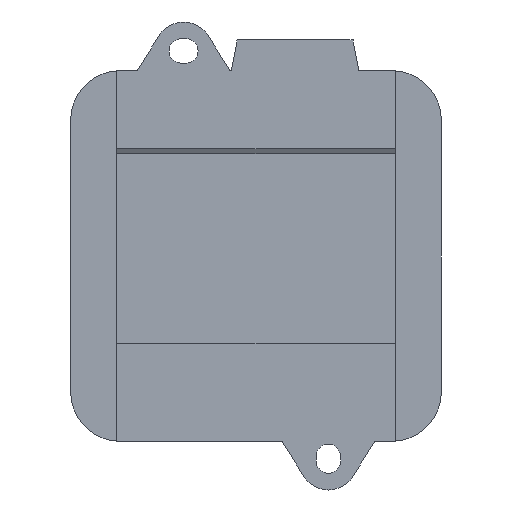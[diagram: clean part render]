
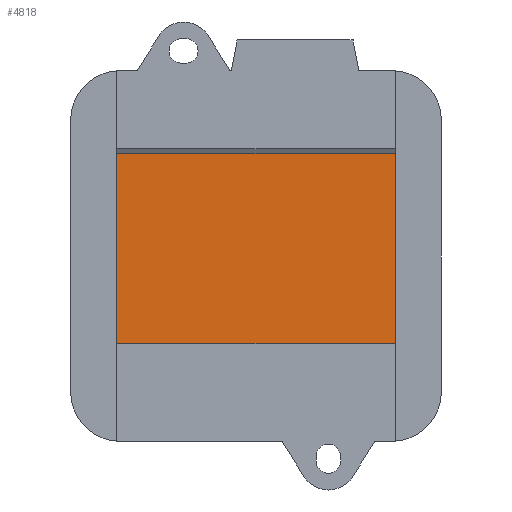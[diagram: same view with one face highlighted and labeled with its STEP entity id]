
A CAD part, front view. The second image highlights one B-rep face of the part: STEP entity #4818.
In plain terms, the highlighted planar face has unit normal (0, -1, 0).
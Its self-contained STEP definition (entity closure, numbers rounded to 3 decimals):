
#238 = VECTOR ( 'NONE', #2219, 1000. ) ;
#1397 = LINE ( 'NONE', #7222, #3841 ) ;
#1495 = EDGE_CURVE ( 'NONE', #3610, #9575, #1397, .T. ) ;
#1688 = CARTESIAN_POINT ( 'NONE',  ( 24., 4., 17.65 ) ) ;
#1710 = LINE ( 'NONE', #9372, #3172 ) ;
#2219 = DIRECTION ( 'NONE',  ( 1., 0., 0. ) ) ;
#3172 = VECTOR ( 'NONE', #7713, 1000. ) ;
#3610 = VERTEX_POINT ( 'NONE', #3780 ) ;
#3780 = CARTESIAN_POINT ( 'NONE',  ( -24., 4., 17.65 ) ) ;
#3841 = VECTOR ( 'NONE', #6492, 1000. ) ;
#4446 = ORIENTED_EDGE ( 'NONE', *, *, #4961, .F. ) ;
#4467 = ORIENTED_EDGE ( 'NONE', *, *, #7706, .T. ) ;
#4569 = LINE ( 'NONE', #8930, #6967 ) ;
#4609 = CARTESIAN_POINT ( 'NONE',  ( 24., 4., -17.65 ) ) ;
#4639 = FACE_OUTER_BOUND ( 'NONE', #7500, .T. ) ;
#4818 = ADVANCED_FACE ( 'NONE', ( #4639 ), #9360, .F. ) ;
#4961 = EDGE_CURVE ( 'NONE', #9575, #8125, #1710, .T. ) ;
#5237 = CARTESIAN_POINT ( 'NONE',  ( -24., 4., -17.65 ) ) ;
#5258 = CARTESIAN_POINT ( 'NONE',  ( -24., 4., -17.65 ) ) ;
#6137 = EDGE_CURVE ( 'NONE', #7940, #8125, #9439, .T. ) ;
#6492 = DIRECTION ( 'NONE',  ( 1., 0., 0. ) ) ;
#6498 = DIRECTION ( 'NONE',  ( 0., 0., 1. ) ) ;
#6741 = ORIENTED_EDGE ( 'NONE', *, *, #6137, .T. ) ;
#6967 = VECTOR ( 'NONE', #9530, 1000. ) ;
#7222 = CARTESIAN_POINT ( 'NONE',  ( -24., 4., 17.65 ) ) ;
#7500 = EDGE_LOOP ( 'NONE', ( #9527, #4467, #6741, #4446 ) ) ;
#7613 = DIRECTION ( 'NONE',  ( 0., 1., 0. ) ) ;
#7706 = EDGE_CURVE ( 'NONE', #3610, #7940, #4569, .T. ) ;
#7713 = DIRECTION ( 'NONE',  ( 0., 0., -1. ) ) ;
#7940 = VERTEX_POINT ( 'NONE', #8661 ) ;
#8125 = VERTEX_POINT ( 'NONE', #4609 ) ;
#8171 = AXIS2_PLACEMENT_3D ( 'NONE', #5237, #7613, #6498 ) ;
#8661 = CARTESIAN_POINT ( 'NONE',  ( -24., 4., -17.65 ) ) ;
#8930 = CARTESIAN_POINT ( 'NONE',  ( -24., 4., 32. ) ) ;
#9360 = PLANE ( 'NONE',  #8171 ) ;
#9372 = CARTESIAN_POINT ( 'NONE',  ( 24., 4., 32. ) ) ;
#9439 = LINE ( 'NONE', #5258, #238 ) ;
#9527 = ORIENTED_EDGE ( 'NONE', *, *, #1495, .F. ) ;
#9530 = DIRECTION ( 'NONE',  ( 0., 0., -1. ) ) ;
#9575 = VERTEX_POINT ( 'NONE', #1688 ) ;
